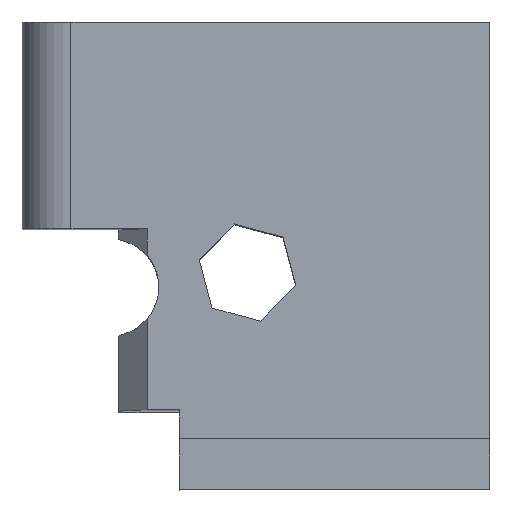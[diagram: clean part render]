
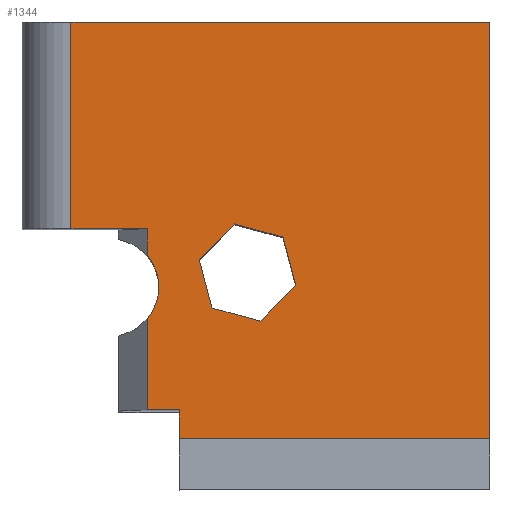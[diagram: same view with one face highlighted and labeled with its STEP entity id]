
A CAD part, top view. The second image highlights one B-rep face of the part: STEP entity #1344.
In plain terms, the highlighted planar face has unit normal (0, 0, 1).
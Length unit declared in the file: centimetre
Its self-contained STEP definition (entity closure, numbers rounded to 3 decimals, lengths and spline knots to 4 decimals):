
#6 = ORIENTED_EDGE ( 'NONE', *, *, #1311, .F. ) ;
#22 = CARTESIAN_POINT ( 'NONE',  ( 509.2287, 359.9836, 1000. ) ) ;
#24 = CARTESIAN_POINT ( 'NONE',  ( 509.2287, 359.9836, 1000. ) ) ;
#29 = DIRECTION ( 'NONE',  ( -1., 0., 0. ) ) ;
#40 = VECTOR ( 'NONE', #29, 100. ) ;
#44 = DIRECTION ( 'NONE',  ( 0., -1., 0. ) ) ;
#52 = VERTEX_POINT ( 'NONE', #863 ) ;
#57 = CARTESIAN_POINT ( 'NONE',  ( 267.2508, 557.5277, 1000. ) ) ;
#86 = LINE ( 'NONE', #129, #1781 ) ;
#95 = EDGE_CURVE ( 'NONE', #1651, #1248, #251, .T. ) ;
#129 = CARTESIAN_POINT ( 'NONE',  ( 558.0893, 539.5692, 1000. ) ) ;
#157 = ORIENTED_EDGE ( 'NONE', *, *, #231, .F. ) ;
#158 = CARTESIAN_POINT ( 'NONE',  ( 104.1285, 557.5277, 1000. ) ) ;
#169 = PLANE ( 'NONE',  #280 ) ;
#174 = DIRECTION ( 'NONE',  ( -1., 0., 0. ) ) ;
#176 = ORIENTED_EDGE ( 'NONE', *, *, #1039, .F. ) ;
#184 = CARTESIAN_POINT ( 'NONE',  ( 378.4254, 491.7988, 1000. ) ) ;
#189 = CIRCLE ( 'NONE', #1209, 105.229 ) ;
#223 = CARTESIAN_POINT ( 'NONE',  ( 1000., 1000., 1000. ) ) ;
#231 = EDGE_CURVE ( 'NONE', #52, #643, #485, .T. ) ;
#243 = VECTOR ( 'NONE', #296, 100. ) ;
#251 = LINE ( 'NONE', #1829, #1541 ) ;
#253 = EDGE_CURVE ( 'NONE', #1057, #628, #782, .T. ) ;
#280 = AXIS2_PLACEMENT_3D ( 'NONE', #866, #1594, #439 ) ;
#284 = CARTESIAN_POINT ( 'NONE',  ( 267.2508, 365.1077, 1000. ) ) ;
#294 = EDGE_CURVE ( 'NONE', #647, #1451, #1740, .T. ) ;
#296 = DIRECTION ( 'NONE',  ( 0.965, -0.263, 0. ) ) ;
#309 = VECTOR ( 'NONE', #1528, 100. ) ;
#310 = DIRECTION ( 'NONE',  ( 0., 1., 0. ) ) ;
#312 = CARTESIAN_POINT ( 'NONE',  ( 186.8172, 432.9573, 1000. ) ) ;
#328 = CARTESIAN_POINT ( 'NONE',  ( 0., 1000., 1000. ) ) ;
#333 = AXIS2_PLACEMENT_3D ( 'NONE', #312, #1168, #1637 ) ;
#334 = DIRECTION ( 'NONE',  ( -0.253, 0.967, 0. ) ) ;
#350 = CARTESIAN_POINT ( 'NONE',  ( 335.8319, 108.6389, 1000. ) ) ;
#360 = VECTOR ( 'NONE', #912, 100. ) ;
#370 = LINE ( 'NONE', #1553, #673 ) ;
#377 = VERTEX_POINT ( 'NONE', #982 ) ;
#439 = DIRECTION ( 'NONE',  ( 1., 0., 0. ) ) ;
#444 = EDGE_CURVE ( 'NONE', #1248, #1512, #1059, .T. ) ;
#445 = CARTESIAN_POINT ( 'NONE',  ( 104.1285, 0., 1000. ) ) ;
#446 = ORIENTED_EDGE ( 'NONE', *, *, #749, .T. ) ;
#485 = LINE ( 'NONE', #1026, #1509 ) ;
#492 = ORIENTED_EDGE ( 'NONE', *, *, #294, .T. ) ;
#544 = EDGE_CURVE ( 'NONE', #1848, #643, #1285, .T. ) ;
#549 = ORIENTED_EDGE ( 'NONE', *, *, #770, .F. ) ;
#570 = CARTESIAN_POINT ( 'NONE',  ( 405.5449, 388.1933, 1000. ) ) ;
#581 = FACE_BOUND ( 'NONE', #1817, .T. ) ;
#596 = CARTESIAN_POINT ( 'NONE',  ( 585.2087, 435.9637, 1000. ) ) ;
#617 = EDGE_CURVE ( 'NONE', #377, #628, #1618, .T. ) ;
#623 = VERTEX_POINT ( 'NONE', #1483 ) ;
#628 = VERTEX_POINT ( 'NONE', #897 ) ;
#640 = DIRECTION ( 'NONE',  ( 0., -1., 0. ) ) ;
#643 = VERTEX_POINT ( 'NONE', #768 ) ;
#647 = VERTEX_POINT ( 'NONE', #1044 ) ;
#666 = EDGE_CURVE ( 'NONE', #623, #865, #1198, .T. ) ;
#673 = VECTOR ( 'NONE', #836, 100. ) ;
#694 = ORIENTED_EDGE ( 'NONE', *, *, #1761, .F. ) ;
#707 = DIRECTION ( 'NONE',  ( -0.707, -0.707, 0. ) ) ;
#749 = EDGE_CURVE ( 'NONE', #865, #647, #1623, .T. ) ;
#764 = VECTOR ( 'NONE', #1333, 100. ) ;
#768 = CARTESIAN_POINT ( 'NONE',  ( 267.2508, 170.16, 1000. ) ) ;
#769 = VERTEX_POINT ( 'NONE', #24 ) ;
#770 = EDGE_CURVE ( 'NONE', #1641, #998, #1481, .T. ) ;
#780 = ORIENTED_EDGE ( 'NONE', *, *, #617, .T. ) ;
#782 = CIRCLE ( 'NONE', #333, 105.229 ) ;
#790 = EDGE_LOOP ( 'NONE', ( #157, #933, #694, #1713, #446, #492, #1852, #780, #1169, #6, #1791 ) ) ;
#802 = DIRECTION ( 'NONE',  ( 1., 0., 0. ) ) ;
#820 = VECTOR ( 'NONE', #640, 100. ) ;
#836 = DIRECTION ( 'NONE',  ( -1., 0., 0. ) ) ;
#853 = VERTEX_POINT ( 'NONE', #350 ) ;
#856 = FACE_OUTER_BOUND ( 'NONE', #790, .T. ) ;
#859 = LINE ( 'NONE', #1834, #1036 ) ;
#863 = CARTESIAN_POINT ( 'NONE',  ( 335.8319, 170.16, 1000. ) ) ;
#865 = VERTEX_POINT ( 'NONE', #223 ) ;
#866 = CARTESIAN_POINT ( 'NONE',  ( 0., 0., 1000. ) ) ;
#897 = CARTESIAN_POINT ( 'NONE',  ( 267.2508, 500.8068, 1000. ) ) ;
#912 = DIRECTION ( 'NONE',  ( 0., -1., 0. ) ) ;
#931 = CARTESIAN_POINT ( 'NONE',  ( 454.4055, 567.7789, 1000. ) ) ;
#933 = ORIENTED_EDGE ( 'NONE', *, *, #1526, .F. ) ;
#937 = VECTOR ( 'NONE', #1172, 100. ) ;
#973 = CARTESIAN_POINT ( 'NONE',  ( 1000., 108.6389, 1000. ) ) ;
#982 = CARTESIAN_POINT ( 'NONE',  ( 267.2508, 557.5277, 1000. ) ) ;
#998 = VERTEX_POINT ( 'NONE', #1724 ) ;
#1026 = CARTESIAN_POINT ( 'NONE',  ( 143.4051, 170.16, 1000. ) ) ;
#1027 = ORIENTED_EDGE ( 'NONE', *, *, #1430, .F. ) ;
#1036 = VECTOR ( 'NONE', #1290, 100. ) ;
#1039 = EDGE_CURVE ( 'NONE', #769, #1641, #1040, .T. ) ;
#1040 = LINE ( 'NONE', #22, #937 ) ;
#1044 = CARTESIAN_POINT ( 'NONE',  ( 104.1285, 1000., 1000. ) ) ;
#1050 = CARTESIAN_POINT ( 'NONE',  ( 1000., 1000., 1000. ) ) ;
#1057 = VERTEX_POINT ( 'NONE', #1324 ) ;
#1058 = VECTOR ( 'NONE', #44, 100. ) ;
#1059 = LINE ( 'NONE', #184, #764 ) ;
#1089 = CARTESIAN_POINT ( 'NONE',  ( 186.8172, 432.9573, 1000. ) ) ;
#1155 = VECTOR ( 'NONE', #310, 100. ) ;
#1168 = DIRECTION ( 'NONE',  ( 0., 0., 1. ) ) ;
#1169 = ORIENTED_EDGE ( 'NONE', *, *, #253, .F. ) ;
#1172 = DIRECTION ( 'NONE',  ( 0.707, 0.707, 0. ) ) ;
#1198 = LINE ( 'NONE', #1050, #1155 ) ;
#1199 = CARTESIAN_POINT ( 'NONE',  ( 267.2508, 557.5277, 1000. ) ) ;
#1209 = AXIS2_PLACEMENT_3D ( 'NONE', #1089, #1521, #802 ) ;
#1231 = CARTESIAN_POINT ( 'NONE',  ( 585.2087, 435.9637, 1000. ) ) ;
#1245 = EDGE_CURVE ( 'NONE', #377, #1451, #370, .T. ) ;
#1248 = VERTEX_POINT ( 'NONE', #1411 ) ;
#1274 = EDGE_CURVE ( 'NONE', #998, #1651, #86, .T. ) ;
#1285 = LINE ( 'NONE', #57, #360 ) ;
#1290 = DIRECTION ( 'NONE',  ( 0., 1., 0. ) ) ;
#1311 = EDGE_CURVE ( 'NONE', #1848, #1057, #189, .T. ) ;
#1324 = CARTESIAN_POINT ( 'NONE',  ( 292.0461, 432.9573, 1000. ) ) ;
#1333 = DIRECTION ( 'NONE',  ( 0.253, -0.967, 0. ) ) ;
#1344 = ADVANCED_FACE ( 'NONE', ( #856, #581 ), #169, .T. ) ;
#1411 = CARTESIAN_POINT ( 'NONE',  ( 378.4254, 491.7988, 1000. ) ) ;
#1414 = CARTESIAN_POINT ( 'NONE',  ( 405.5449, 388.1933, 1000. ) ) ;
#1430 = EDGE_CURVE ( 'NONE', #1512, #769, #1752, .T. ) ;
#1451 = VERTEX_POINT ( 'NONE', #158 ) ;
#1458 = VECTOR ( 'NONE', #334, 100. ) ;
#1481 = LINE ( 'NONE', #596, #1458 ) ;
#1483 = CARTESIAN_POINT ( 'NONE',  ( 1000., 108.6389, 1000. ) ) ;
#1501 = ORIENTED_EDGE ( 'NONE', *, *, #1274, .F. ) ;
#1509 = VECTOR ( 'NONE', #174, 100. ) ;
#1512 = VERTEX_POINT ( 'NONE', #1414 ) ;
#1521 = DIRECTION ( 'NONE',  ( 0., 0., 1. ) ) ;
#1526 = EDGE_CURVE ( 'NONE', #853, #52, #859, .T. ) ;
#1528 = DIRECTION ( 'NONE',  ( -1., 0., 0. ) ) ;
#1541 = VECTOR ( 'NONE', #707, 100. ) ;
#1553 = CARTESIAN_POINT ( 'NONE',  ( 0., 557.5277, 1000. ) ) ;
#1594 = DIRECTION ( 'NONE',  ( 0., 0., 1. ) ) ;
#1618 = LINE ( 'NONE', #1199, #1058 ) ;
#1623 = LINE ( 'NONE', #328, #40 ) ;
#1637 = DIRECTION ( 'NONE',  ( 1., 0., 0. ) ) ;
#1641 = VERTEX_POINT ( 'NONE', #1231 ) ;
#1650 = LINE ( 'NONE', #973, #309 ) ;
#1651 = VERTEX_POINT ( 'NONE', #931 ) ;
#1670 = DIRECTION ( 'NONE',  ( -0.965, 0.263, 0. ) ) ;
#1713 = ORIENTED_EDGE ( 'NONE', *, *, #666, .T. ) ;
#1724 = CARTESIAN_POINT ( 'NONE',  ( 558.0893, 539.5692, 1000. ) ) ;
#1740 = LINE ( 'NONE', #445, #820 ) ;
#1752 = LINE ( 'NONE', #570, #243 ) ;
#1761 = EDGE_CURVE ( 'NONE', #623, #853, #1650, .T. ) ;
#1774 = ORIENTED_EDGE ( 'NONE', *, *, #95, .F. ) ;
#1781 = VECTOR ( 'NONE', #1670, 100. ) ;
#1791 = ORIENTED_EDGE ( 'NONE', *, *, #544, .T. ) ;
#1817 = EDGE_LOOP ( 'NONE', ( #549, #176, #1027, #1831, #1774, #1501 ) ) ;
#1829 = CARTESIAN_POINT ( 'NONE',  ( 454.4055, 567.7789, 1000. ) ) ;
#1831 = ORIENTED_EDGE ( 'NONE', *, *, #444, .F. ) ;
#1834 = CARTESIAN_POINT ( 'NONE',  ( 335.8319, 0., 1000. ) ) ;
#1848 = VERTEX_POINT ( 'NONE', #284 ) ;
#1852 = ORIENTED_EDGE ( 'NONE', *, *, #1245, .F. ) ;
